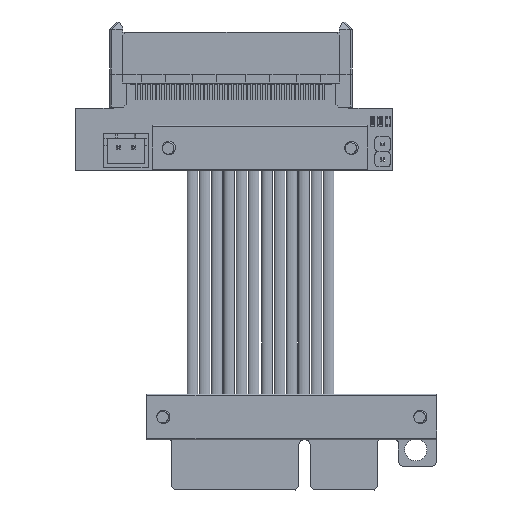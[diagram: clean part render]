
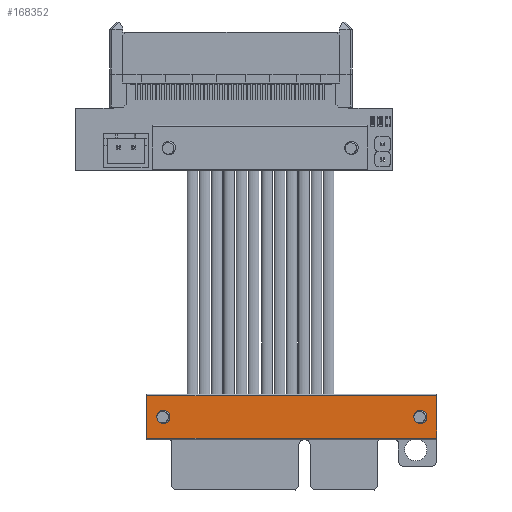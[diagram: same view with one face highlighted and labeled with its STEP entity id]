
A CAD part, top view. The second image highlights one B-rep face of the part: STEP entity #168352.
In plain terms, the highlighted planar face has unit normal (0, 0, 1) as drawn and (-1, 0, 0) by its records, which use the part's own axes.
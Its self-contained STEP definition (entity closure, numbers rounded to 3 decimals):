
#168324 = VERTEX_POINT('',#168325);
#168325 = CARTESIAN_POINT('',(0.,7.1,0.));
#168332 = EDGE_CURVE('',#168333,#168324,#168335,.T.);
#168333 = VERTEX_POINT('',#168334);
#168334 = CARTESIAN_POINT('',(0.,7.1,48.4));
#168335 = LINE('',#168336,#168337);
#168336 = CARTESIAN_POINT('',(0.,7.1,48.4));
#168337 = VECTOR('',#168338,1.);
#168338 = DIRECTION('',(-0.,-0.,-1.));
#168352 = ADVANCED_FACE('',(#168353,#168364,#168384),#168409,.F.);
#168353 = FACE_BOUND('',#168354,.F.);
#168354 = EDGE_LOOP('',(#168355));
#168355 = ORIENTED_EDGE('',*,*,#168356,.T.);
#168356 = EDGE_CURVE('',#168357,#168357,#168359,.T.);
#168357 = VERTEX_POINT('',#168358);
#168358 = CARTESIAN_POINT('',(0.,2.45,2.75));
#168359 = CIRCLE('',#168360,1.1);
#168360 = AXIS2_PLACEMENT_3D('',#168361,#168362,#168363);
#168361 = CARTESIAN_POINT('',(0.,3.55,2.75));
#168362 = DIRECTION('',(-1.,0.,0.));
#168363 = DIRECTION('',(0.,-1.,0.));
#168364 = FACE_BOUND('',#168365,.F.);
#168365 = EDGE_LOOP('',(#168366,#168377));
#168366 = ORIENTED_EDGE('',*,*,#168367,.T.);
#168367 = EDGE_CURVE('',#168368,#168370,#168372,.T.);
#168368 = VERTEX_POINT('',#168369);
#168369 = CARTESIAN_POINT('',(0.,4.65,45.65));
#168370 = VERTEX_POINT('',#168371);
#168371 = CARTESIAN_POINT('',(0.,2.45,45.65));
#168372 = CIRCLE('',#168373,1.1);
#168373 = AXIS2_PLACEMENT_3D('',#168374,#168375,#168376);
#168374 = CARTESIAN_POINT('',(0.,3.55,45.65));
#168375 = DIRECTION('',(-1.,0.,0.));
#168376 = DIRECTION('',(0.,1.,0.));
#168377 = ORIENTED_EDGE('',*,*,#168378,.T.);
#168378 = EDGE_CURVE('',#168370,#168368,#168379,.T.);
#168379 = CIRCLE('',#168380,1.1);
#168380 = AXIS2_PLACEMENT_3D('',#168381,#168382,#168383);
#168381 = CARTESIAN_POINT('',(0.,3.55,45.65));
#168382 = DIRECTION('',(-1.,0.,0.));
#168383 = DIRECTION('',(0.,1.,0.));
#168384 = FACE_BOUND('',#168385,.T.);
#168385 = EDGE_LOOP('',(#168386,#168394,#168402,#168408));
#168386 = ORIENTED_EDGE('',*,*,#168387,.T.);
#168387 = EDGE_CURVE('',#168324,#168388,#168390,.T.);
#168388 = VERTEX_POINT('',#168389);
#168389 = CARTESIAN_POINT('',(0.,0.,0.));
#168390 = LINE('',#168391,#168392);
#168391 = CARTESIAN_POINT('',(0.,0.,0.));
#168392 = VECTOR('',#168393,1.);
#168393 = DIRECTION('',(0.,-1.,-0.));
#168394 = ORIENTED_EDGE('',*,*,#168395,.F.);
#168395 = EDGE_CURVE('',#168396,#168388,#168398,.T.);
#168396 = VERTEX_POINT('',#168397);
#168397 = CARTESIAN_POINT('',(0.,0.,48.4));
#168398 = LINE('',#168399,#168400);
#168399 = CARTESIAN_POINT('',(0.,0.,48.4));
#168400 = VECTOR('',#168401,1.);
#168401 = DIRECTION('',(-0.,-0.,-1.));
#168402 = ORIENTED_EDGE('',*,*,#168403,.F.);
#168403 = EDGE_CURVE('',#168333,#168396,#168404,.T.);
#168404 = LINE('',#168405,#168406);
#168405 = CARTESIAN_POINT('',(0.,0.,48.4));
#168406 = VECTOR('',#168407,1.);
#168407 = DIRECTION('',(0.,-1.,-0.));
#168408 = ORIENTED_EDGE('',*,*,#168332,.T.);
#168409 = PLANE('',#168410);
#168410 = AXIS2_PLACEMENT_3D('',#168411,#168412,#168413);
#168411 = CARTESIAN_POINT('',(0.,0.,48.4));
#168412 = DIRECTION('',(1.,0.,0.));
#168413 = DIRECTION('',(0.,1.,0.));
